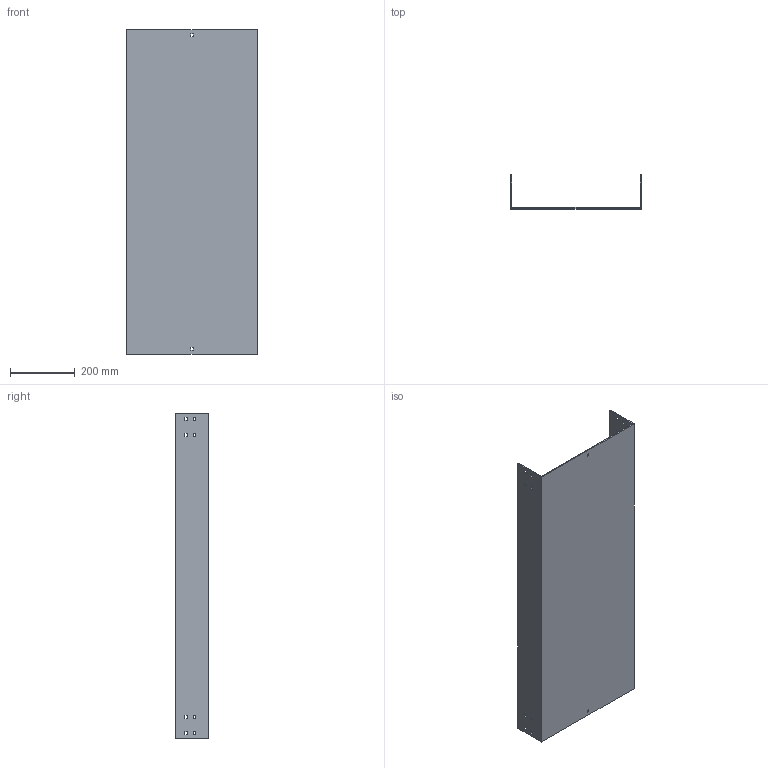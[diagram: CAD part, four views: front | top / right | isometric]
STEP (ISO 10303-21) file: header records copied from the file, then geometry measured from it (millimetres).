
FILE_DESCRIPTION (( 'STEP AP214' ), '1' );
FILE_NAME ('03F1D400.step', '2025-02-21T13:15:33', ( '' ), ( '' ), 'SwSTEP 2.0', 'SolidWorks 2023', '' );
FILE_SCHEMA (( 'AUTOMOTIVE_DESIGN' ));
Length unit declared in the file: millimetre
Products named in the file (1): 03F1D400
Bounding box: 404 x 104 x 1000 mm (x, y, z)
Volume: 2113170.5 mm3; surface area: 1220882 mm2
Topology: 1 solids, 1 shells, 82 faces, 240 edges, 160 vertices
Faces by surface type: plane 82
Entity records: 2759 total; most frequent: CARTESIAN_POINT 483, ORIENTED_EDGE 480, DIRECTION 406, LINE 240, EDGE_CURVE 240, VECTOR 240, VERTEX_POINT 160, EDGE_LOOP 118
